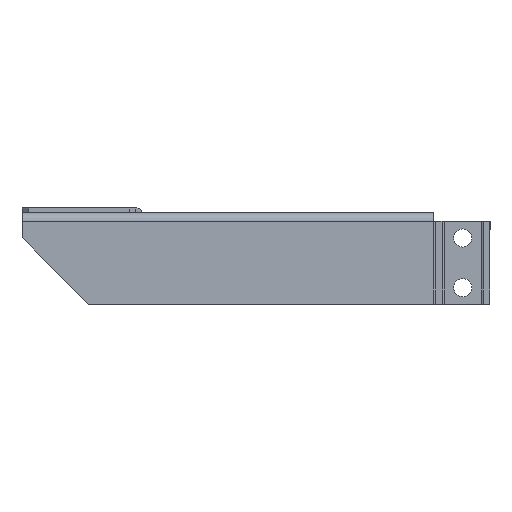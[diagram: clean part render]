
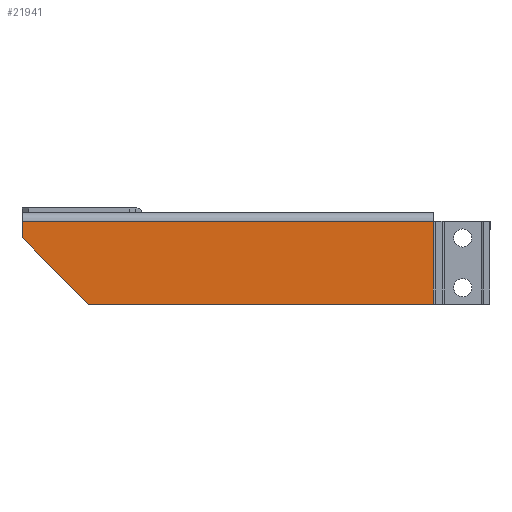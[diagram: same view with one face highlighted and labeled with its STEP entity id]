
A CAD part, left-side view. The second image highlights one B-rep face of the part: STEP entity #21941.
In plain terms, the highlighted planar face has unit normal (-1, 0, 0) as drawn and (0, 0, -1) by its records, which use the part's own axes.
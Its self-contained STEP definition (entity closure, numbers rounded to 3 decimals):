
#21286=CARTESIAN_POINT(' ',(12.5,-8.85,13.6));
#21291=DIRECTION(' ',(0.,-1.,0.));
#21296=VECTOR(' ',#21291,1.);
#21301=LINE('',#21286,#21296);
#21306=CARTESIAN_POINT(' ',(12.5,-8.85,13.6));
#21307=VERTEX_POINT(' ',#21306);
#21311=CARTESIAN_POINT(' ',(12.5,-133.25,13.6));
#21312=VERTEX_POINT(' ',#21311);
#21316=EDGE_CURVE(' ',#21307,#21312,#21301,.T.);
#21766=DIRECTION(' ',(0.,0.,-1.));
#21771=CARTESIAN_POINT(' ',(12.5,-8.85,13.6));
#21776=DIRECTION(' ',(0.,-1.,0.));
#21781=AXIS2_PLACEMENT_3D(' ',#21771,#21766,#21776);
#21786=PLANE('NONE',#21781);
#21791=CARTESIAN_POINT(' ',(-12.5,-113.25,13.6));
#21796=DIRECTION(' ',(0.,1.,0.));
#21801=VECTOR(' ',#21796,1.);
#21806=LINE('',#21791,#21801);
#21811=CARTESIAN_POINT(' ',(-12.5,-113.25,13.6));
#21812=VERTEX_POINT(' ',#21811);
#21816=CARTESIAN_POINT(' ',(-12.5,-8.85,13.6));
#21817=VERTEX_POINT(' ',#21816);
#21821=EDGE_CURVE(' ',#21812,#21817,#21806,.T.);
#21826=ORIENTED_EDGE(' ',*,*,#21821,.T.);
#21831=CARTESIAN_POINT(' ',(-12.5,-8.85,13.6));
#21836=DIRECTION(' ',(1.,0.,0.));
#21841=VECTOR(' ',#21836,1.);
#21846=LINE('',#21831,#21841);
#21851=EDGE_CURVE(' ',#21817,#21307,#21846,.T.);
#21856=ORIENTED_EDGE(' ',*,*,#21851,.T.);
#21861=ORIENTED_EDGE(' ',*,*,#21316,.T.);
#21866=CARTESIAN_POINT(' ',(12.5,-133.25,13.6));
#21871=DIRECTION(' ',(-1.,0.,0.));
#21876=VECTOR(' ',#21871,1.);
#21881=LINE('',#21866,#21876);
#21886=CARTESIAN_POINT(' ',(7.5,-133.25,13.6));
#21887=VERTEX_POINT(' ',#21886);
#21891=EDGE_CURVE(' ',#21312,#21887,#21881,.T.);
#21896=ORIENTED_EDGE(' ',*,*,#21891,.T.);
#21901=CARTESIAN_POINT(' ',(-12.5,-113.25,13.6));
#21906=DIRECTION(' ',(0.707,-0.707,0.));
#21911=VECTOR(' ',#21906,1.);
#21916=LINE('',#21901,#21911);
#21921=EDGE_CURVE(' ',#21812,#21887,#21916,.T.);
#21926=ORIENTED_EDGE(' ',*,*,#21921,.F.);
#21931=EDGE_LOOP(' ',(#21826,#21856,#21861,#21896,#21926));
#21936=FACE_OUTER_BOUND(' ',#21931,.T.);
#21941=ADVANCED_FACE('NONE',(#21936),#21786,.T.);
